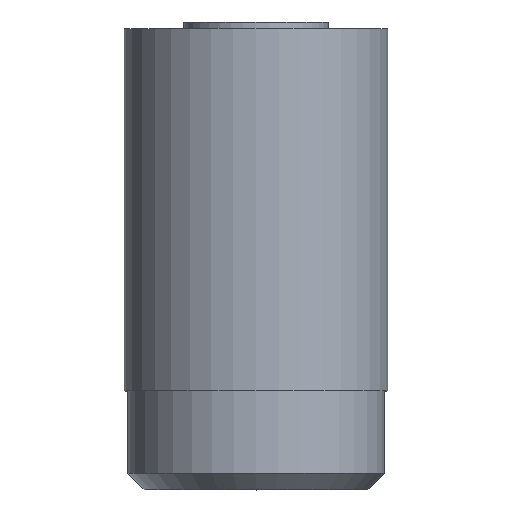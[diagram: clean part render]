
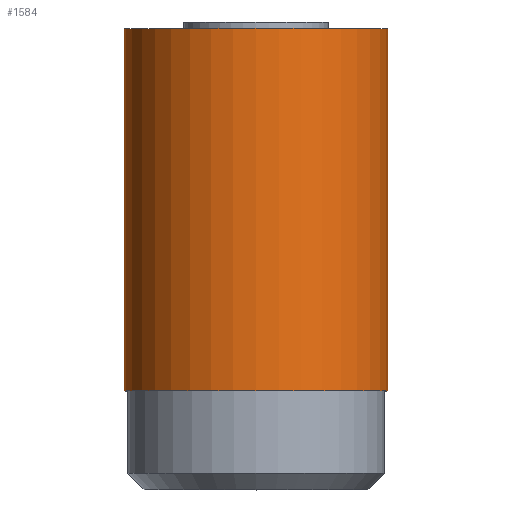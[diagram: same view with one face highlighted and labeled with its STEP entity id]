
A CAD part, top view. The second image highlights one B-rep face of the part: STEP entity #1584.
In plain terms, the highlighted cylindrical face has radius 4 mm (diameter 8 mm), a full revolution.
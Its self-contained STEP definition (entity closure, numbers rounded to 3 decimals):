
#42 = EDGE_LOOP ( 'NONE', ( #908 ) ) ;
#221 = CARTESIAN_POINT ( 'NONE',  ( 0., 4., 0. ) ) ;
#241 = AXIS2_PLACEMENT_3D ( 'NONE', #1412, #1988, #2263 ) ;
#392 = DIRECTION ( 'NONE',  ( 0., -1., 0. ) ) ;
#908 = ORIENTED_EDGE ( 'NONE', *, *, #1353, .F. ) ;
#947 = CIRCLE ( 'NONE', #241, 4. ) ;
#965 = CARTESIAN_POINT ( 'NONE',  ( 4., 14., 0. ) ) ;
#979 = CARTESIAN_POINT ( 'NONE',  ( 4., 3., 0. ) ) ;
#1016 = DIRECTION ( 'NONE',  ( 0., -1., 0. ) ) ;
#1349 = CYLINDRICAL_SURFACE ( 'NONE', #1922, 4. ) ;
#1353 = EDGE_CURVE ( 'NONE', #1679, #1679, #947, .T. ) ;
#1361 = EDGE_CURVE ( 'NONE', #1641, #1641, #3241, .T. ) ;
#1412 = CARTESIAN_POINT ( 'NONE',  ( 0., 3., 0. ) ) ;
#1584 = ADVANCED_FACE ( 'NONE', ( #2182, #3368 ), #1349, .T. ) ;
#1641 = VERTEX_POINT ( 'NONE', #965 ) ;
#1679 = VERTEX_POINT ( 'NONE', #979 ) ;
#1922 = AXIS2_PLACEMENT_3D ( 'NONE', #221, #1016, #3457 ) ;
#1988 = DIRECTION ( 'NONE',  ( 0., -1., 0. ) ) ;
#2182 = FACE_OUTER_BOUND ( 'NONE', #42, .T. ) ;
#2263 = DIRECTION ( 'NONE',  ( 1., 0., 0. ) ) ;
#2794 = CARTESIAN_POINT ( 'NONE',  ( 0., 14., 0. ) ) ;
#2963 = AXIS2_PLACEMENT_3D ( 'NONE', #2794, #392, #3380 ) ;
#3134 = ORIENTED_EDGE ( 'NONE', *, *, #1361, .T. ) ;
#3238 = EDGE_LOOP ( 'NONE', ( #3134 ) ) ;
#3241 = CIRCLE ( 'NONE', #2963, 4. ) ;
#3368 = FACE_OUTER_BOUND ( 'NONE', #3238, .T. ) ;
#3380 = DIRECTION ( 'NONE',  ( 1., 0., 0. ) ) ;
#3457 = DIRECTION ( 'NONE',  ( 1., 0., 0. ) ) ;
